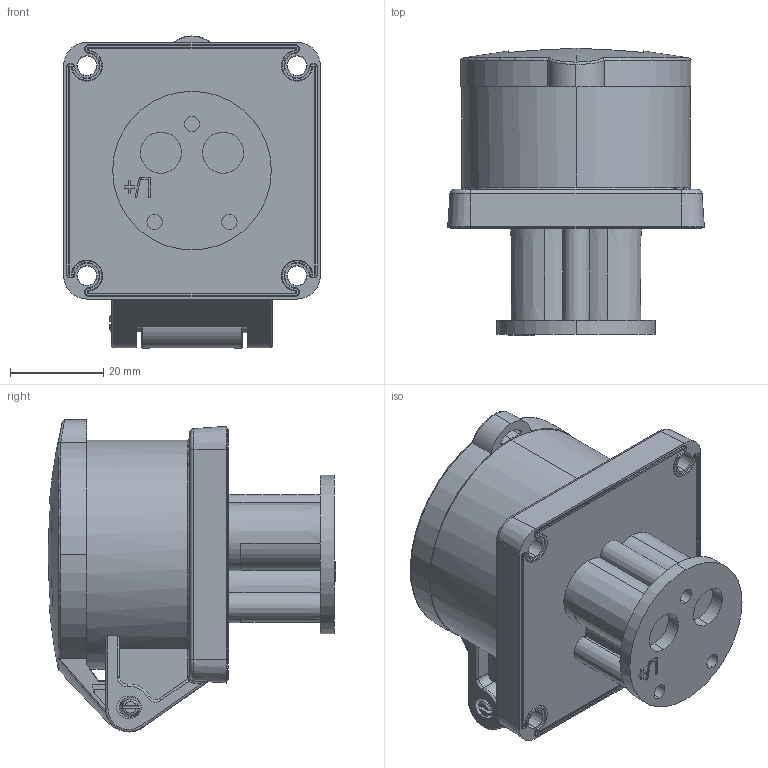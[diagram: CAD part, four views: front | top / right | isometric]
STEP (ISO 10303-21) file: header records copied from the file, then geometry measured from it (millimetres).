
FILE_DESCRIPTION (( 'STEP AP203' ), '1' );
FILE_NAME ('DIS4301616 (PSS 2p 16ﾀ 50ﾂ IP44).STEP', '2024-09-03T10:37:59', ( '' ), ( '' ), 'SwSTEP 2.0', 'SolidWorks 2022', '' );
FILE_SCHEMA (( 'CONFIG_CONTROL_DESIGN' ));
Length unit declared in the file: millimetre
Products named in the file (1): DIS4301616 (PSS 2p 16А 50В IP44)
Bounding box: 55 x 61.57 x 66.85 mm (x, y, z)
Volume: 96155.7 mm3; surface area: 20844.7 mm2
Topology: 2 solids, 4 shells, 621 faces, 1595 edges, 996 vertices
Faces by surface type: cylinder 204, plane 204, cone 97, torus 58, bspline 44, sphere 14
Entity records: 20871 total; most frequent: CARTESIAN_POINT 5968, ORIENTED_EDGE 3174, DIRECTION 3094, EDGE_CURVE 1587, AXIS2_PLACEMENT_3D 1225, VERTEX_POINT 996, EDGE_LOOP 657, CIRCLE 647
